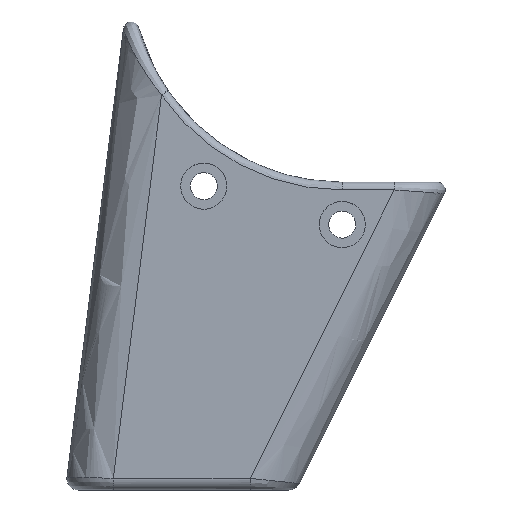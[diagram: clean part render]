
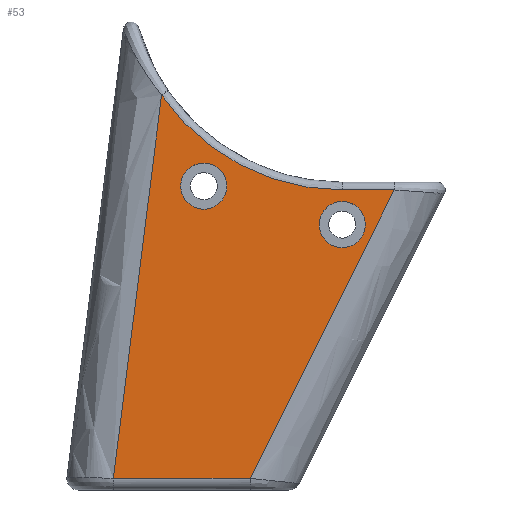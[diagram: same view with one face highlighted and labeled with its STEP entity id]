
A CAD part, top view. The second image highlights one B-rep face of the part: STEP entity #53.
In plain terms, the highlighted planar face has unit normal (0, 0, 1).
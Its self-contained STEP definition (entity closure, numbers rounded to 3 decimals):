
#18=FACE_BOUND('',#136,.T.);
#19=FACE_BOUND('',#137,.T.);
#53=ADVANCED_FACE('',(#92,#18,#19),#586,.T.);
#92=FACE_OUTER_BOUND('',#135,.T.);
#135=EDGE_LOOP('',(#286,#287,#288,#289,#290));
#136=EDGE_LOOP('',(#291,#292));
#137=EDGE_LOOP('',(#293,#294));
#286=ORIENTED_EDGE('',*,*,#361,.F.);
#287=ORIENTED_EDGE('',*,*,#400,.F.);
#288=ORIENTED_EDGE('',*,*,#401,.T.);
#289=ORIENTED_EDGE('',*,*,#398,.F.);
#290=ORIENTED_EDGE('',*,*,#355,.F.);
#291=ORIENTED_EDGE('',*,*,#423,.F.);
#292=ORIENTED_EDGE('',*,*,#402,.F.);
#293=ORIENTED_EDGE('',*,*,#420,.F.);
#294=ORIENTED_EDGE('',*,*,#403,.F.);
#355=EDGE_CURVE('',#539,#536,#475,.T.);
#361=EDGE_CURVE('',#541,#539,#438,.T.);
#398=EDGE_CURVE('',#536,#554,#455,.T.);
#400=EDGE_CURVE('',#551,#541,#457,.T.);
#401=EDGE_CURVE('',#551,#554,#458,.T.);
#402=EDGE_CURVE('',#565,#575,#498,.T.);
#403=EDGE_CURVE('',#563,#573,#499,.T.);
#420=EDGE_CURVE('',#573,#563,#513,.T.);
#423=EDGE_CURVE('',#575,#565,#516,.T.);
#438=B_SPLINE_CURVE_WITH_KNOTS('',3,(#1285,#1286,#1287,#1288,#1289,#1290,
#1291,#1292,#1293,#1294,#1295,#1296),.UNSPECIFIED.,.F.,.F.,(4,2,2,2,2,4),
(-27.603,-23.893,-18.032,-13.351,
-8.67,0.),.UNSPECIFIED.);
#455=B_SPLINE_CURVE_WITH_KNOTS('',1,(#1420,#1421),.UNSPECIFIED.,.F.,.F.,
(2,2),(-40.603,1.323),.UNSPECIFIED.);
#457=B_SPLINE_CURVE_WITH_KNOTS('',1,(#1425,#1426),.UNSPECIFIED.,.F.,.F.,
(2,2),(-65.766,-15.517),.UNSPECIFIED.);
#458=B_SPLINE_CURVE_WITH_KNOTS('',1,(#1427,#1428),.UNSPECIFIED.,.F.,.F.,
(2,2),(0.189,17.994),.UNSPECIFIED.);
#475=(
BOUNDED_CURVE()
B_SPLINE_CURVE(1,(#1239,#1240),.UNSPECIFIED.,.F.,.F.)
B_SPLINE_CURVE_WITH_KNOTS((2,2),(-7.292,-0.5),
 .UNSPECIFIED.)
CURVE()
GEOMETRIC_REPRESENTATION_ITEM()
RATIONAL_B_SPLINE_CURVE((1.,1.))
REPRESENTATION_ITEM('')
);
#498=(
BOUNDED_CURVE()
B_SPLINE_CURVE(2,(#1429,#1430,#1431,#1432,#1433),.UNSPECIFIED.,.F.,.F.)
B_SPLINE_CURVE_WITH_KNOTS((3,2,3),(0.,4.712,9.425),
 .UNSPECIFIED.)
CURVE()
GEOMETRIC_REPRESENTATION_ITEM()
RATIONAL_B_SPLINE_CURVE((1.,0.707,1.,0.707,1.))
REPRESENTATION_ITEM('')
);
#499=(
BOUNDED_CURVE()
B_SPLINE_CURVE(2,(#1434,#1435,#1436,#1437,#1438),.UNSPECIFIED.,.F.,.F.)
B_SPLINE_CURVE_WITH_KNOTS((3,2,3),(0.,4.712,9.425),
 .UNSPECIFIED.)
CURVE()
GEOMETRIC_REPRESENTATION_ITEM()
RATIONAL_B_SPLINE_CURVE((1.,0.707,1.,0.707,1.))
REPRESENTATION_ITEM('')
);
#513=(
BOUNDED_CURVE()
B_SPLINE_CURVE(2,(#1494,#1495,#1496,#1497,#1498),.UNSPECIFIED.,.F.,.F.)
B_SPLINE_CURVE_WITH_KNOTS((3,2,3),(9.425,14.137,18.85),
 .UNSPECIFIED.)
CURVE()
GEOMETRIC_REPRESENTATION_ITEM()
RATIONAL_B_SPLINE_CURVE((1.,0.707,1.,0.707,1.))
REPRESENTATION_ITEM('')
);
#516=(
BOUNDED_CURVE()
B_SPLINE_CURVE(2,(#1506,#1507,#1508,#1509,#1510),.UNSPECIFIED.,.F.,.F.)
B_SPLINE_CURVE_WITH_KNOTS((3,2,3),(9.425,14.137,18.85),
 .UNSPECIFIED.)
CURVE()
GEOMETRIC_REPRESENTATION_ITEM()
RATIONAL_B_SPLINE_CURVE((1.,0.707,1.,0.707,1.))
REPRESENTATION_ITEM('')
);
#536=VERTEX_POINT('',#1123);
#539=VERTEX_POINT('',#1126);
#541=VERTEX_POINT('',#1128);
#551=VERTEX_POINT('',#1138);
#554=VERTEX_POINT('',#1141);
#563=VERTEX_POINT('',#1150);
#565=VERTEX_POINT('',#1152);
#573=VERTEX_POINT('',#1160);
#575=VERTEX_POINT('',#1162);
#586=PLANE('',#707);
#707=AXIS2_PLACEMENT_3D('',#1052,#716,$);
#716=DIRECTION('',(0.,0.,1.));
#1052=CARTESIAN_POINT('',(-27.75,8.437,9.));
#1123=CARTESIAN_POINT('',(-41.208,-28.5,9.));
#1126=CARTESIAN_POINT('',(-48.,-28.5,9.));
#1128=CARTESIAN_POINT('',(-71.486,-16.145,9.));
#1138=CARTESIAN_POINT('',(-77.764,-66.,9.));
#1141=CARTESIAN_POINT('',(-59.958,-66.,9.));
#1150=CARTESIAN_POINT('',(-45.,-33.,9.));
#1152=CARTESIAN_POINT('',(-63.,-28.,9.));
#1160=CARTESIAN_POINT('',(-51.,-33.,9.));
#1162=CARTESIAN_POINT('',(-69.,-28.,9.));
#1239=CARTESIAN_POINT('',(-48.,-28.5,9.));
#1240=CARTESIAN_POINT('',(-41.208,-28.5,9.));
#1285=CARTESIAN_POINT('',(-71.486,-16.145,9.));
#1286=CARTESIAN_POINT('',(-70.785,-17.164,9.));
#1287=CARTESIAN_POINT('',(-70.018,-18.138,9.));
#1288=CARTESIAN_POINT('',(-67.885,-20.51,9.));
#1289=CARTESIAN_POINT('',(-66.429,-21.828,9.));
#1290=CARTESIAN_POINT('',(-63.595,-23.906,9.));
#1291=CARTESIAN_POINT('',(-62.26,-24.725,9.));
#1292=CARTESIAN_POINT('',(-59.476,-26.134,9.));
#1293=CARTESIAN_POINT('',(-58.026,-26.724,9.));
#1294=CARTESIAN_POINT('',(-53.78,-28.057,9.));
#1295=CARTESIAN_POINT('',(-50.89,-28.501,9.));
#1296=CARTESIAN_POINT('',(-48.,-28.5,9.));
#1420=CARTESIAN_POINT('',(-41.208,-28.5,9.));
#1421=CARTESIAN_POINT('',(-59.958,-66.,9.));
#1425=CARTESIAN_POINT('',(-77.764,-66.,9.));
#1426=CARTESIAN_POINT('',(-71.486,-16.145,9.));
#1427=CARTESIAN_POINT('',(-77.764,-66.,9.));
#1428=CARTESIAN_POINT('',(-59.958,-66.,9.));
#1429=CARTESIAN_POINT('',(-63.,-28.,9.));
#1430=CARTESIAN_POINT('',(-63.,-25.,9.));
#1431=CARTESIAN_POINT('',(-66.,-25.,9.));
#1432=CARTESIAN_POINT('',(-69.,-25.,9.));
#1433=CARTESIAN_POINT('',(-69.,-28.,9.));
#1434=CARTESIAN_POINT('',(-45.,-33.,9.));
#1435=CARTESIAN_POINT('',(-45.,-30.,9.));
#1436=CARTESIAN_POINT('',(-48.,-30.,9.));
#1437=CARTESIAN_POINT('',(-51.,-30.,9.));
#1438=CARTESIAN_POINT('',(-51.,-33.,9.));
#1494=CARTESIAN_POINT('',(-51.,-33.,9.));
#1495=CARTESIAN_POINT('',(-51.,-36.,9.));
#1496=CARTESIAN_POINT('',(-48.,-36.,9.));
#1497=CARTESIAN_POINT('',(-45.,-36.,9.));
#1498=CARTESIAN_POINT('',(-45.,-33.,9.));
#1506=CARTESIAN_POINT('',(-69.,-28.,9.));
#1507=CARTESIAN_POINT('',(-69.,-31.,9.));
#1508=CARTESIAN_POINT('',(-66.,-31.,9.));
#1509=CARTESIAN_POINT('',(-63.,-31.,9.));
#1510=CARTESIAN_POINT('',(-63.,-28.,9.));
